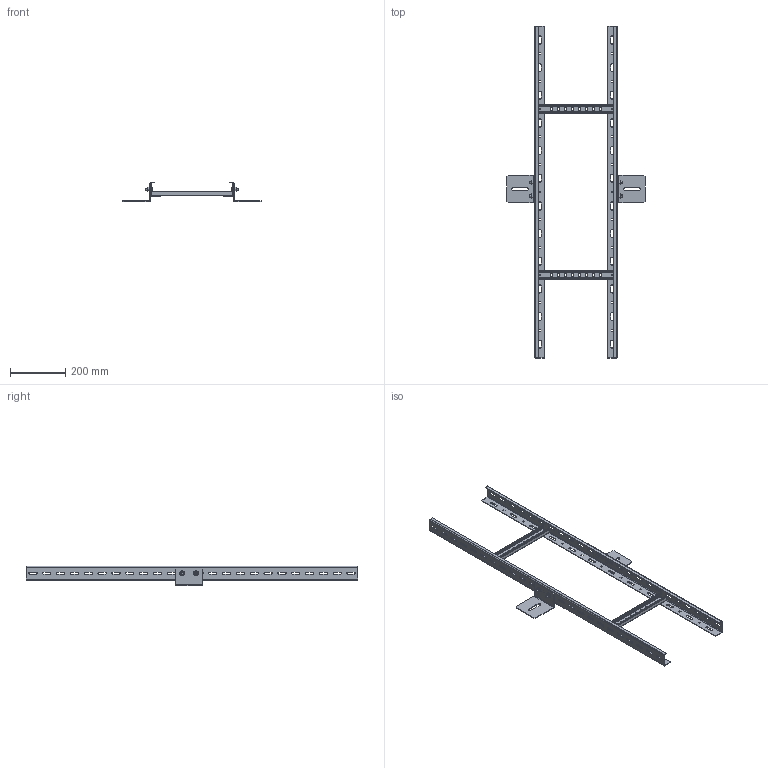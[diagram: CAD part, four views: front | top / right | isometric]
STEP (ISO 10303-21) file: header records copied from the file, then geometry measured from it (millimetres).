
FILE_DESCRIPTION (( 'STEP AP214' ), '1' );
FILE_NAME ('1010.STEP', '2016-10-12T11:27:57', ( '' ), ( '' ), 'SwSTEP 2.0', 'SolidWorks 2016', '' );
FILE_SCHEMA (( 'AUTOMOTIVE_DESIGN' ));
Length unit declared in the file: millimetre
Products named in the file (8): 050202 衭帊; 067809 襟8捘_Hexagon Flange Nut DIN 6923 - M8 - N; OSTEC ﾍﾋﾎ 002.00.01.200-600_300; 065829 撂820贤_伄 M8x10 儙憭 7798-70; 鍔膰睯縺_h 50; ÂËË(ÑÍ)_300å50 ª®à; 1010
Assembly tree (15 placements, depth 3):
  1010
    ÂËË(ÑÍ)_300å50 ª®à
      鍔膰睯縺_h 50
      鍔膰睯縺_h 50
      OSTEC ﾍﾋﾎ 002.00.01.200-600_300  x2
    050202 衭帊  x2
    065829 撂820贤_伄 M8x10 儙憭 7798-70  x4
    067809 襟8捘_Hexagon Flange Nut DIN 6923 - M8 - N  x4
Bounding box: 500 x 1200.25 x 70.01 mm (x, y, z)
Volume: 555416.6 mm3; surface area: 599362.7 mm2
Topology: 14 solids, 14 shells, 872 faces, 2384 edges, 1544 vertices
Faces by surface type: plane 440, cylinder 328, cone 72, bspline 24, torus 8
Entity records: 21784 total; most frequent: CARTESIAN_POINT 4014, ORIENTED_EDGE 3620, DIRECTION 3618, EDGE_CURVE 1810, AXIS2_PLACEMENT_3D 1206, LINE 1206, VECTOR 1206, VERTEX_POINT 1190
